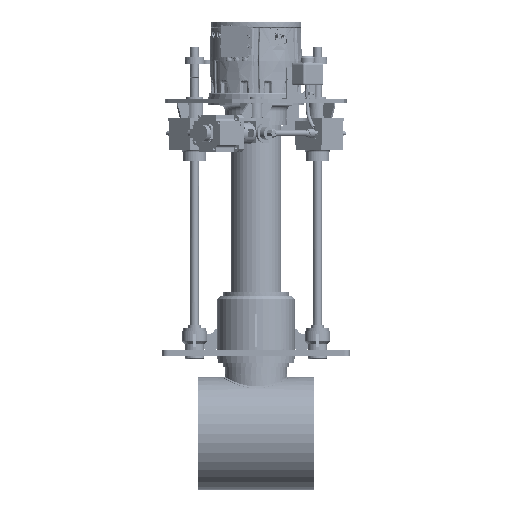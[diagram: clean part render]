
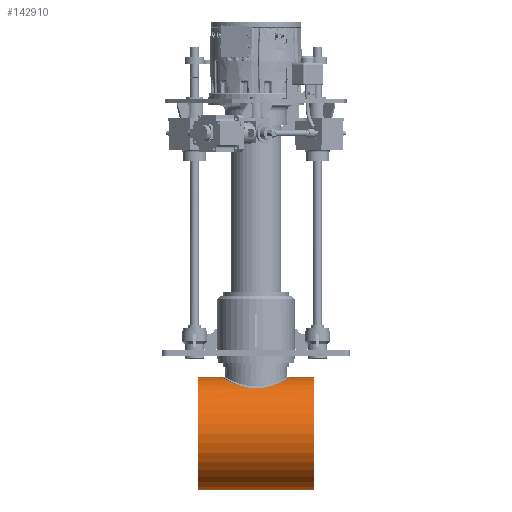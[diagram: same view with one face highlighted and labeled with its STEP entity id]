
A CAD part, left-side view. The second image highlights one B-rep face of the part: STEP entity #142910.
In plain terms, the highlighted cylindrical face has radius 270 mm (diameter 540 mm), a full revolution.
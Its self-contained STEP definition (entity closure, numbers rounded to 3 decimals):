
#8433=B_SPLINE_CURVE_WITH_KNOTS('',3,(#271954,#271955,#271956,#271957,#271958,
#271959,#271960,#271961,#271962,#271963,#271964,#271965,#271966,#271967,
#271968,#271969,#271970,#271971,#271972,#271973,#271974,#271975,#271976,
#271977,#271978,#271979,#271980,#271981,#271982,#271983,#271984,#271985,
#271986,#271987,#271988,#271989,#271990,#271991,#271992,#271993,#271994,
#271995),.UNSPECIFIED.,.F.,.F.,(4,2,2,2,2,2,2,2,2,2,2,2,2,2,2,2,2,2,2,2,
4),(25.015,26.573,28.132,31.249,
34.366,37.483,40.619,43.756,46.893,
48.461,50.029,51.598,53.166,56.302,
59.439,62.576,65.693,68.81,71.927,
73.485,75.044),.UNSPECIFIED.);
#8434=B_SPLINE_CURVE_WITH_KNOTS('',3,(#271996,#271997,#271998,#271999,#272000,
#272001,#272002,#272003,#272004,#272005,#272006,#272007,#272008,#272009,
#272010,#272011,#272012,#272013,#272014,#272015,#272016,#272017,#272018,
#272019,#272020,#272021,#272022,#272023,#272024,#272025,#272026,#272027,
#272028,#272029,#272030,#272031,#272032,#272033,#272034,#272035,#272036,
#272037,#272038),.UNSPECIFIED.,.F.,.F.,(4,2,2,2,2,2,2,2,2,2,3,2,2,2,2,2,
2,2,2,2,4),(75.044,76.602,78.161,81.278,
84.395,87.512,90.648,93.785,96.922,
98.49,100.058,101.627,103.195,106.332,
109.468,112.605,115.722,118.839,121.956,
123.515,125.073),.UNSPECIFIED.);
#9521=FACE_BOUND('',#23841,.T.);
#15716=FACE_OUTER_BOUND('',#23840,.T.);
#23840=EDGE_LOOP('',(#117238,#117239,#117240,#117241));
#23841=EDGE_LOOP('',(#117242,#117243));
#30834=CIRCLE('',#154944,270.);
#30835=CIRCLE('',#154945,270.);
#40989=LINE('',#271950,#51014);
#51014=VECTOR('',#187273,270.);
#63075=VERTEX_POINT('',#271947);
#63076=VERTEX_POINT('',#271949);
#63077=VERTEX_POINT('',#271952);
#63078=VERTEX_POINT('',#271953);
#81789=EDGE_CURVE('',#63075,#63075,#30834,.T.);
#81790=EDGE_CURVE('',#63075,#63076,#40989,.T.);
#81791=EDGE_CURVE('',#63076,#63076,#30835,.T.);
#81792=EDGE_CURVE('',#63077,#63078,#8433,.T.);
#81793=EDGE_CURVE('',#63078,#63077,#8434,.T.);
#117238=ORIENTED_EDGE('',*,*,#81789,.T.);
#117239=ORIENTED_EDGE('',*,*,#81790,.T.);
#117240=ORIENTED_EDGE('',*,*,#81791,.T.);
#117241=ORIENTED_EDGE('',*,*,#81790,.F.);
#117242=ORIENTED_EDGE('',*,*,#81792,.T.);
#117243=ORIENTED_EDGE('',*,*,#81793,.T.);
#128871=CYLINDRICAL_SURFACE('',#154943,270.);
#142910=ADVANCED_FACE('',(#15716,#9521),#128871,.T.);
#154943=AXIS2_PLACEMENT_3D('',#271946,#187269,#187270);
#154944=AXIS2_PLACEMENT_3D('',#271948,#187271,#187272);
#154945=AXIS2_PLACEMENT_3D('',#271951,#187274,#187275);
#187269=DIRECTION('center_axis',(0.,-1.,0.));
#187270=DIRECTION('ref_axis',(-1.,0.,0.));
#187271=DIRECTION('center_axis',(0.,1.,0.));
#187272=DIRECTION('ref_axis',(-1.,0.,0.));
#187273=DIRECTION('',(0.,1.,0.));
#187274=DIRECTION('center_axis',(0.,-1.,0.));
#187275=DIRECTION('ref_axis',(-1.,0.,0.));
#271946=CARTESIAN_POINT('Origin',(0.,0.,
-374.088));
#271947=CARTESIAN_POINT('',(270.,-277.5,-374.088));
#271948=CARTESIAN_POINT('Origin',(0.,-277.5,
-374.088));
#271949=CARTESIAN_POINT('',(270.,277.5,-374.088));
#271950=CARTESIAN_POINT('',(270.,0.,-374.088));
#271951=CARTESIAN_POINT('Origin',(0.,277.5,
-374.088));
#271952=CARTESIAN_POINT('',(0.,161.,-104.088));
#271953=CARTESIAN_POINT('',(0.,-161.,-104.088));
#271954=CARTESIAN_POINT('Ctrl Pts',(0.,161.,-104.088));
#271955=CARTESIAN_POINT('Ctrl Pts',(5.195,161.,-104.088));
#271956=CARTESIAN_POINT('Ctrl Pts',(10.458,160.748,-104.238));
#271957=CARTESIAN_POINT('Ctrl Pts',(21.018,159.71,-104.855));
#271958=CARTESIAN_POINT('Ctrl Pts',(26.313,158.926,-105.321));
#271959=CARTESIAN_POINT('Ctrl Pts',(42.097,155.769,-107.179));
#271960=CARTESIAN_POINT('Ctrl Pts',(52.479,152.584,-109.042));
#271961=CARTESIAN_POINT('Ctrl Pts',(72.248,144.278,-113.735));
#271962=CARTESIAN_POINT('Ctrl Pts',(81.654,139.151,-116.567));
#271963=CARTESIAN_POINT('Ctrl Pts',(98.962,127.424,-122.709));
#271964=CARTESIAN_POINT('Ctrl Pts',(106.865,120.823,-126.017));
#271965=CARTESIAN_POINT('Ctrl Pts',(120.867,106.821,-132.528));
#271966=CARTESIAN_POINT('Ctrl Pts',(127.475,98.895,-135.979));
#271967=CARTESIAN_POINT('Ctrl Pts',(139.186,81.593,-142.63));
#271968=CARTESIAN_POINT('Ctrl Pts',(144.291,72.217,-145.823));
#271969=CARTESIAN_POINT('Ctrl Pts',(152.57,52.513,-151.272));
#271970=CARTESIAN_POINT('Ctrl Pts',(155.75,42.164,-153.523));
#271971=CARTESIAN_POINT('Ctrl Pts',(158.912,26.394,-155.802));
#271972=CARTESIAN_POINT('Ctrl Pts',(159.701,21.095,-156.381));
#271973=CARTESIAN_POINT('Ctrl Pts',(160.744,10.512,-157.151));
#271974=CARTESIAN_POINT('Ctrl Pts',(161.,5.228,-157.341));
#271975=CARTESIAN_POINT('Ctrl Pts',(161.,-5.228,-157.341));
#271976=CARTESIAN_POINT('Ctrl Pts',(160.744,-10.512,
-157.151));
#271977=CARTESIAN_POINT('Ctrl Pts',(159.701,-21.095,
-156.381));
#271978=CARTESIAN_POINT('Ctrl Pts',(158.912,-26.394,
-155.802));
#271979=CARTESIAN_POINT('Ctrl Pts',(155.75,-42.164,
-153.523));
#271980=CARTESIAN_POINT('Ctrl Pts',(152.57,-52.513,
-151.272));
#271981=CARTESIAN_POINT('Ctrl Pts',(144.291,-72.217,
-145.823));
#271982=CARTESIAN_POINT('Ctrl Pts',(139.186,-81.593,
-142.63));
#271983=CARTESIAN_POINT('Ctrl Pts',(127.475,-98.895,
-135.979));
#271984=CARTESIAN_POINT('Ctrl Pts',(120.867,-106.821,-132.528));
#271985=CARTESIAN_POINT('Ctrl Pts',(106.865,-120.823,
-126.017));
#271986=CARTESIAN_POINT('Ctrl Pts',(98.962,-127.424,
-122.709));
#271987=CARTESIAN_POINT('Ctrl Pts',(81.654,-139.151,
-116.567));
#271988=CARTESIAN_POINT('Ctrl Pts',(72.248,-144.278,
-113.735));
#271989=CARTESIAN_POINT('Ctrl Pts',(52.479,-152.584,
-109.042));
#271990=CARTESIAN_POINT('Ctrl Pts',(42.097,-155.769,
-107.179));
#271991=CARTESIAN_POINT('Ctrl Pts',(26.313,-158.926,
-105.321));
#271992=CARTESIAN_POINT('Ctrl Pts',(21.018,-159.71,
-104.855));
#271993=CARTESIAN_POINT('Ctrl Pts',(10.458,-160.748,
-104.238));
#271994=CARTESIAN_POINT('Ctrl Pts',(5.195,-161.,-104.088));
#271995=CARTESIAN_POINT('Ctrl Pts',(0.,-161.,-104.088));
#271996=CARTESIAN_POINT('Ctrl Pts',(0.,-161.,-104.088));
#271997=CARTESIAN_POINT('Ctrl Pts',(-5.195,-161.,-104.088));
#271998=CARTESIAN_POINT('Ctrl Pts',(-10.458,-160.748,
-104.238));
#271999=CARTESIAN_POINT('Ctrl Pts',(-21.018,-159.71,
-104.855));
#272000=CARTESIAN_POINT('Ctrl Pts',(-26.313,-158.926,
-105.321));
#272001=CARTESIAN_POINT('Ctrl Pts',(-42.097,-155.769,
-107.179));
#272002=CARTESIAN_POINT('Ctrl Pts',(-52.479,-152.584,
-109.042));
#272003=CARTESIAN_POINT('Ctrl Pts',(-72.248,-144.278,
-113.735));
#272004=CARTESIAN_POINT('Ctrl Pts',(-81.654,-139.151,
-116.567));
#272005=CARTESIAN_POINT('Ctrl Pts',(-98.962,-127.424,
-122.709));
#272006=CARTESIAN_POINT('Ctrl Pts',(-106.865,-120.823,
-126.017));
#272007=CARTESIAN_POINT('Ctrl Pts',(-120.867,-106.821,
-132.528));
#272008=CARTESIAN_POINT('Ctrl Pts',(-127.475,-98.895,
-135.979));
#272009=CARTESIAN_POINT('Ctrl Pts',(-139.186,-81.593,
-142.63));
#272010=CARTESIAN_POINT('Ctrl Pts',(-144.291,-72.217,
-145.823));
#272011=CARTESIAN_POINT('Ctrl Pts',(-152.57,-52.513,
-151.272));
#272012=CARTESIAN_POINT('Ctrl Pts',(-155.75,-42.164,
-153.523));
#272013=CARTESIAN_POINT('Ctrl Pts',(-158.912,-26.394,
-155.802));
#272014=CARTESIAN_POINT('Ctrl Pts',(-159.701,-21.095,
-156.381));
#272015=CARTESIAN_POINT('Ctrl Pts',(-160.744,-10.512,
-157.151));
#272016=CARTESIAN_POINT('Ctrl Pts',(-161.,-5.228,
-157.341));
#272017=CARTESIAN_POINT('Ctrl Pts',(-161.,0.,
-157.341));
#272018=CARTESIAN_POINT('Ctrl Pts',(-161.,5.228,
-157.341));
#272019=CARTESIAN_POINT('Ctrl Pts',(-160.744,10.512,
-157.151));
#272020=CARTESIAN_POINT('Ctrl Pts',(-159.701,21.095,
-156.381));
#272021=CARTESIAN_POINT('Ctrl Pts',(-158.912,26.394,
-155.802));
#272022=CARTESIAN_POINT('Ctrl Pts',(-155.75,42.164,
-153.523));
#272023=CARTESIAN_POINT('Ctrl Pts',(-152.57,52.513,-151.272));
#272024=CARTESIAN_POINT('Ctrl Pts',(-144.291,72.217,-145.823));
#272025=CARTESIAN_POINT('Ctrl Pts',(-139.186,81.593,
-142.63));
#272026=CARTESIAN_POINT('Ctrl Pts',(-127.475,98.895,
-135.979));
#272027=CARTESIAN_POINT('Ctrl Pts',(-120.867,106.821,
-132.528));
#272028=CARTESIAN_POINT('Ctrl Pts',(-106.865,120.823,
-126.017));
#272029=CARTESIAN_POINT('Ctrl Pts',(-98.962,127.424,
-122.709));
#272030=CARTESIAN_POINT('Ctrl Pts',(-81.654,139.151,
-116.567));
#272031=CARTESIAN_POINT('Ctrl Pts',(-72.248,144.278,
-113.735));
#272032=CARTESIAN_POINT('Ctrl Pts',(-52.479,152.584,
-109.042));
#272033=CARTESIAN_POINT('Ctrl Pts',(-42.097,155.769,
-107.179));
#272034=CARTESIAN_POINT('Ctrl Pts',(-26.313,158.926,
-105.321));
#272035=CARTESIAN_POINT('Ctrl Pts',(-21.018,159.71,
-104.855));
#272036=CARTESIAN_POINT('Ctrl Pts',(-10.458,160.748,-104.238));
#272037=CARTESIAN_POINT('Ctrl Pts',(-5.195,161.,-104.088));
#272038=CARTESIAN_POINT('Ctrl Pts',(0.,161.,-104.088));
